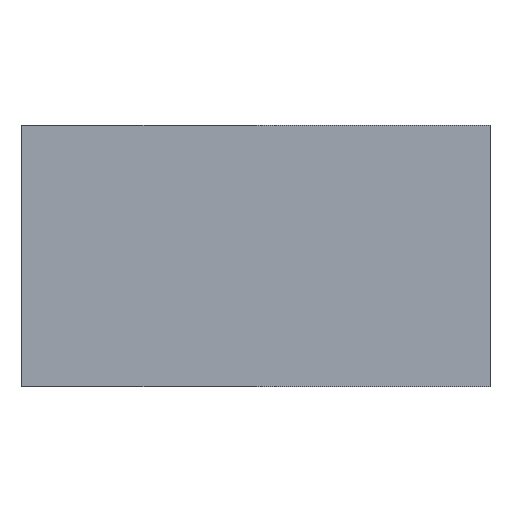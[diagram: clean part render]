
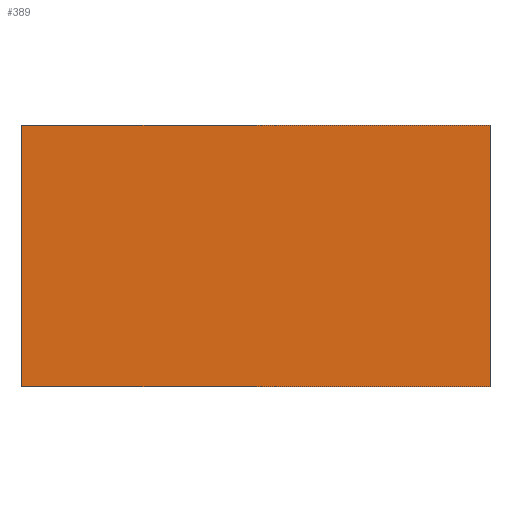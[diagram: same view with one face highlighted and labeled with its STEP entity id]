
A CAD part, front view. The second image highlights one B-rep face of the part: STEP entity #389.
In plain terms, the highlighted planar face has unit normal (0, -1, 0).
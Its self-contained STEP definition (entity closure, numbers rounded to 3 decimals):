
#1 = CARTESIAN_POINT ( 'NONE',  ( 19.288, -0.232, -10. ) ) ;
#20 = VERTEX_POINT ( 'NONE', #68 ) ;
#38 = DIRECTION ( 'NONE',  ( 0., 0., 1. ) ) ;
#42 = DIRECTION ( 'NONE',  ( 1., 0., 0. ) ) ;
#54 = EDGE_CURVE ( 'NONE', #270, #222, #76, .T. ) ;
#64 = ORIENTED_EDGE ( 'NONE', *, *, #54, .F. ) ;
#68 = CARTESIAN_POINT ( 'NONE',  ( 19.288, -0.232, -10. ) ) ;
#76 = LINE ( 'NONE', #341, #236 ) ;
#88 = EDGE_CURVE ( 'NONE', #20, #134, #541, .T. ) ;
#118 = DIRECTION ( 'NONE',  ( 1., 0., 0. ) ) ;
#130 = EDGE_CURVE ( 'NONE', #222, #134, #293, .T. ) ;
#131 = LINE ( 'NONE', #135, #324 ) ;
#134 = VERTEX_POINT ( 'NONE', #531 ) ;
#135 = CARTESIAN_POINT ( 'NONE',  ( 19.288, -0.232, -10. ) ) ;
#144 = ORIENTED_EDGE ( 'NONE', *, *, #223, .T. ) ;
#173 = DIRECTION ( 'NONE',  ( 0., -1., 0. ) ) ;
#180 = CARTESIAN_POINT ( 'NONE',  ( 1.393, -0.232, 0. ) ) ;
#216 = VECTOR ( 'NONE', #38, 1000. ) ;
#221 = FACE_OUTER_BOUND ( 'NONE', #407, .T. ) ;
#222 = VERTEX_POINT ( 'NONE', #180 ) ;
#223 = EDGE_CURVE ( 'NONE', #270, #20, #131, .T. ) ;
#236 = VECTOR ( 'NONE', #422, 1000. ) ;
#270 = VERTEX_POINT ( 'NONE', #348 ) ;
#293 = LINE ( 'NONE', #461, #537 ) ;
#304 = DIRECTION ( 'NONE',  ( 0., 0., -1. ) ) ;
#307 = AXIS2_PLACEMENT_3D ( 'NONE', #1, #173, #304 ) ;
#324 = VECTOR ( 'NONE', #42, 1000. ) ;
#341 = CARTESIAN_POINT ( 'NONE',  ( 1.393, -0.232, -10. ) ) ;
#348 = CARTESIAN_POINT ( 'NONE',  ( 1.393, -0.232, -10. ) ) ;
#389 = ADVANCED_FACE ( 'NONE', ( #221 ), #393, .T. ) ;
#393 = PLANE ( 'NONE',  #307 ) ;
#398 = ORIENTED_EDGE ( 'NONE', *, *, #88, .T. ) ;
#407 = EDGE_LOOP ( 'NONE', ( #516, #64, #144, #398 ) ) ;
#422 = DIRECTION ( 'NONE',  ( 0., 0., 1. ) ) ;
#425 = CARTESIAN_POINT ( 'NONE',  ( 19.288, -0.232, -10. ) ) ;
#461 = CARTESIAN_POINT ( 'NONE',  ( 19.288, -0.232, 0. ) ) ;
#516 = ORIENTED_EDGE ( 'NONE', *, *, #130, .F. ) ;
#531 = CARTESIAN_POINT ( 'NONE',  ( 19.288, -0.232, 0. ) ) ;
#537 = VECTOR ( 'NONE', #118, 1000. ) ;
#541 = LINE ( 'NONE', #425, #216 ) ;
